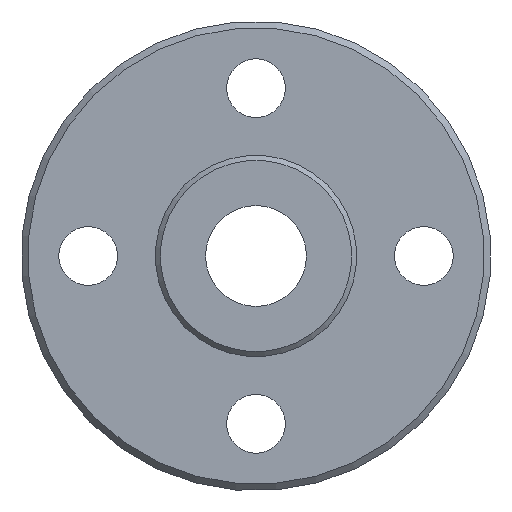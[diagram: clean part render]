
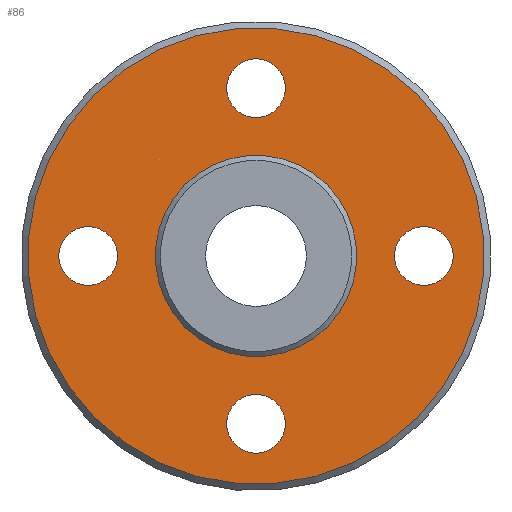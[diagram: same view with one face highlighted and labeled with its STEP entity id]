
A CAD part, left-side view. The second image highlights one B-rep face of the part: STEP entity #86.
In plain terms, the highlighted planar face has unit normal (-1, 0, 0).
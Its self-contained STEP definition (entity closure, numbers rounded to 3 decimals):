
#86=ADVANCED_FACE('',(#141,#142,#143,#144,#145,#146),#147,.T.);
#141=FACE_BOUND('',#233,.T.);
#142=FACE_BOUND('',#234,.T.);
#143=FACE_OUTER_BOUND('',#235,.T.);
#144=FACE_BOUND('',#236,.T.);
#145=FACE_BOUND('',#237,.T.);
#146=FACE_BOUND('',#238,.T.);
#147=PLANE('',#239);
#233=EDGE_LOOP('',(#347));
#234=EDGE_LOOP('',(#348));
#235=EDGE_LOOP('',(#349));
#236=EDGE_LOOP('',(#350));
#237=EDGE_LOOP('',(#351));
#238=EDGE_LOOP('',(#352));
#239=AXIS2_PLACEMENT_3D('',#353,#354,#355);
#347=ORIENTED_EDGE('',*,*,#457,.T.);
#348=ORIENTED_EDGE('',*,*,#458,.T.);
#349=ORIENTED_EDGE('',*,*,#456,.F.);
#350=ORIENTED_EDGE('',*,*,#446,.T.);
#351=ORIENTED_EDGE('',*,*,#459,.T.);
#352=ORIENTED_EDGE('',*,*,#460,.T.);
#353=CARTESIAN_POINT('',(-5.0,6.841,6.841));
#354=DIRECTION('',(-1.0,0.0,0.));
#355=DIRECTION('',(0.,-0.707,0.707));
#446=EDGE_CURVE('',#488,#488,#489,.T.);
#456=EDGE_CURVE('',#508,#508,#509,.T.);
#457=EDGE_CURVE('',#510,#510,#511,.F.);
#458=EDGE_CURVE('',#512,#512,#513,.F.);
#459=EDGE_CURVE('',#514,#514,#515,.F.);
#460=EDGE_CURVE('',#516,#516,#517,.F.);
#488=VERTEX_POINT('',#552);
#489=CIRCLE('',#553,5.75);
#508=VERTEX_POINT('',#572);
#509=CIRCLE('',#573,13.6);
#510=VERTEX_POINT('',#574);
#511=CIRCLE('',#575,1.75);
#512=VERTEX_POINT('',#576);
#513=CIRCLE('',#577,1.75);
#514=VERTEX_POINT('',#578);
#515=CIRCLE('',#579,1.75);
#516=VERTEX_POINT('',#580);
#517=CIRCLE('',#581,1.75);
#552=CARTESIAN_POINT('',(-5.0,4.066,4.066));
#553=AXIS2_PLACEMENT_3D('',#626,#627,#628);
#572=CARTESIAN_POINT('',(-5.,9.617,9.617));
#573=AXIS2_PLACEMENT_3D('',#656,#657,#658);
#574=CARTESIAN_POINT('',(-5.0,-1.237,-8.763));
#575=AXIS2_PLACEMENT_3D('',#659,#660,#661);
#576=CARTESIAN_POINT('',(-5.0,-1.237,11.237));
#577=AXIS2_PLACEMENT_3D('',#662,#663,#664);
#578=CARTESIAN_POINT('',(-5.0,-11.237,1.237));
#579=AXIS2_PLACEMENT_3D('',#665,#666,#667);
#580=CARTESIAN_POINT('',(-5.0,8.763,1.237));
#581=AXIS2_PLACEMENT_3D('',#668,#669,#670);
#626=CARTESIAN_POINT('',(-5.0,0.,0.));
#627=DIRECTION('',(1.0,0.0,0.));
#628=DIRECTION('',(0.,0.707,0.707));
#656=CARTESIAN_POINT('',(-5.0,0.,0.));
#657=DIRECTION('',(1.0,0.0,0.));
#658=DIRECTION('',(0.,0.707,0.707));
#659=CARTESIAN_POINT('',(-5.0,0.,-10.0));
#660=DIRECTION('',(-1.0,0.0,0.));
#661=DIRECTION('',(0.,-0.707,0.707));
#662=CARTESIAN_POINT('',(-5.0,0.,10.0));
#663=DIRECTION('',(-1.0,0.0,0.));
#664=DIRECTION('',(0.,-0.707,0.707));
#665=CARTESIAN_POINT('',(-5.0,-10.0,0.));
#666=DIRECTION('',(-1.0,0.0,0.));
#667=DIRECTION('',(0.,-0.707,0.707));
#668=CARTESIAN_POINT('',(-5.0,10.0,0.));
#669=DIRECTION('',(-1.0,0.0,0.));
#670=DIRECTION('',(0.,-0.707,0.707));
